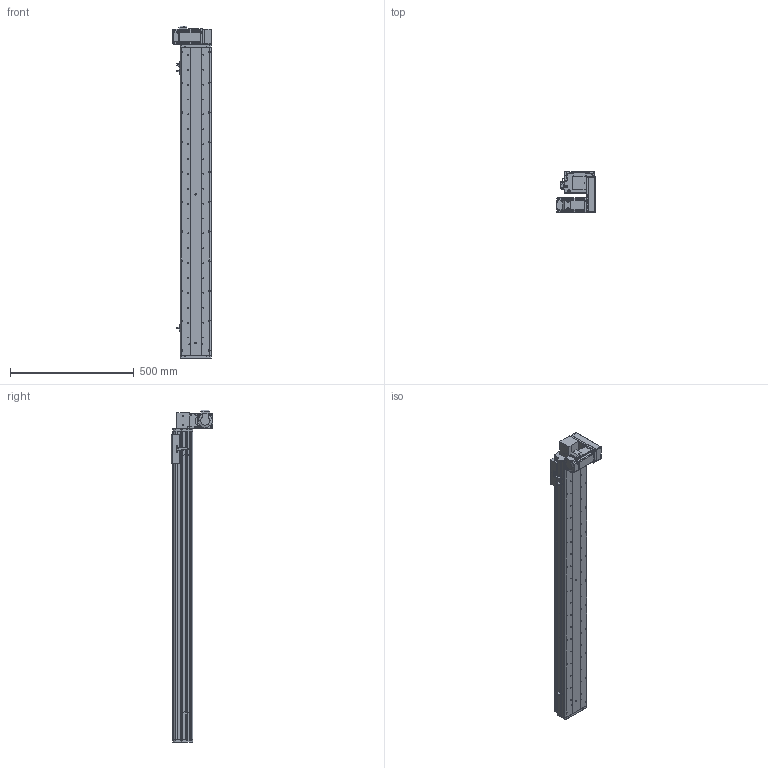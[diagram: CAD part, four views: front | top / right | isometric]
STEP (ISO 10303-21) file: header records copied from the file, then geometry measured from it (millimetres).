
FILE_DESCRIPTION (( 'STEP AP214' ), '1' );
FILE_NAME ('KSD125B-S1050-MLD-CM.STEP', '2017-10-21T02:55:27', ( '微软用户' ), ( '微软中国' ), 'SwSTEP 2.0', 'SolidWorks 2014', '' );
FILE_SCHEMA (( 'AUTOMOTIVE_DESIGN' ));
Length unit declared in the file: millimetre
Products named in the file (17): KSD125模组同步带-防撞垫2; 覜茼え68遵圉猾敕; U倰嫖萇假蚾璃; U倰嫖萇EEㄜSX672; KSD125模组同步带-防撞垫1; 前端板-125宽模组同步带; 125模组同步带-尾端板1; KSD125模组同步带-滑动座1; KSD125B-S1050-MLD-CM; 悵誘欶奻狟殏; 100宽马达安装板连板上下折丝杆同步带; HTPA30S3M150_A_H6_a佪裝蚚; HTPA30S3M150_A_H6_a萇儂蚚; 100宽马达安装板同步带左; KSD125模组1050行程同步带-防尘盖; 125模组1050行程同步带-底板; MHMD042G1CA_2_03
Assembly tree (20 placements, depth 2):
  KSD125B-S1050-MLD-CM
    KSD125模组同步带-滑动座1
    125模组同步带-尾端板1
    前端板-125宽模组同步带
    KSD125模组同步带-防撞垫1
    U倰嫖萇EEㄜSX672  x3
    U倰嫖萇假蚾璃  x3
    覜茼え68遵圉猾敕
    KSD125模组同步带-防撞垫2
    MHMD042G1CA_2_03
    125模组1050行程同步带-底板
    KSD125模组1050行程同步带-防尘盖
    100宽马达安装板同步带左
    HTPA30S3M150_A_H6_a萇儂蚚
    HTPA30S3M150_A_H6_a佪裝蚚
    100宽马达安装板连板上下折丝杆同步带
    悵誘欶奻狟殏
Bounding box: 155 x 166.5 x 1339 mm (x, y, z)
Volume: 4058002.9 mm3; surface area: 1363251.2 mm2
Topology: 19 solids, 22 shells, 2325 faces, 6739 edges, 4454 vertices
Faces by surface type: cylinder 1468, plane 730, cone 105, bspline 22
Entity records: 82901 total; most frequent: CARTESIAN_POINT 16353, DIRECTION 12884, ORIENTED_EDGE 11998, EDGE_CURVE 6077, AXIS2_PLACEMENT_3D 4989, VERTEX_POINT 4046, VECTOR 2906, LINE 2906
